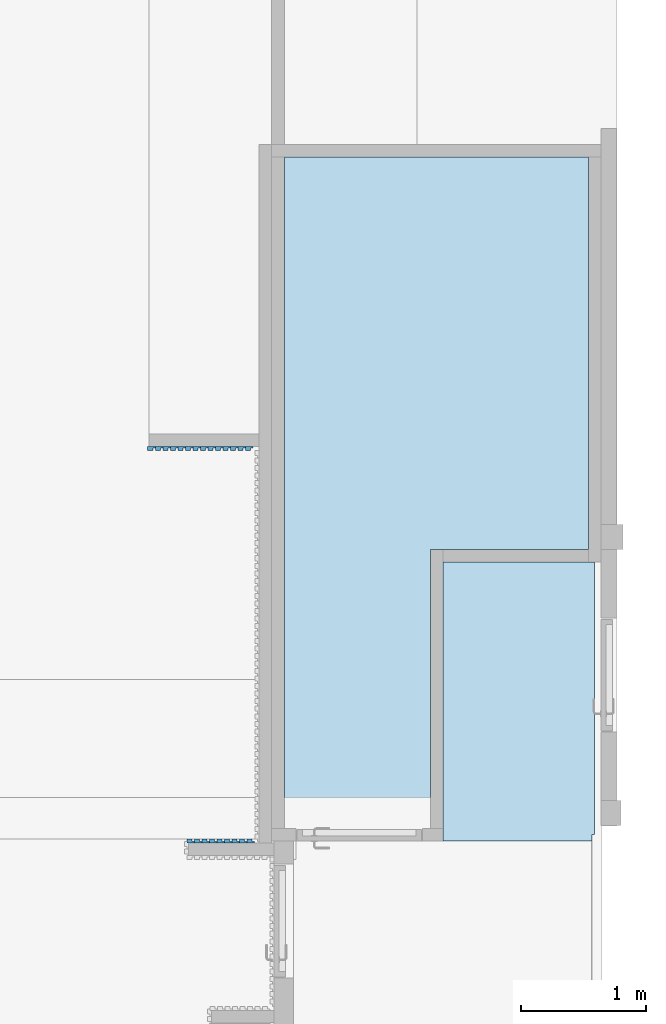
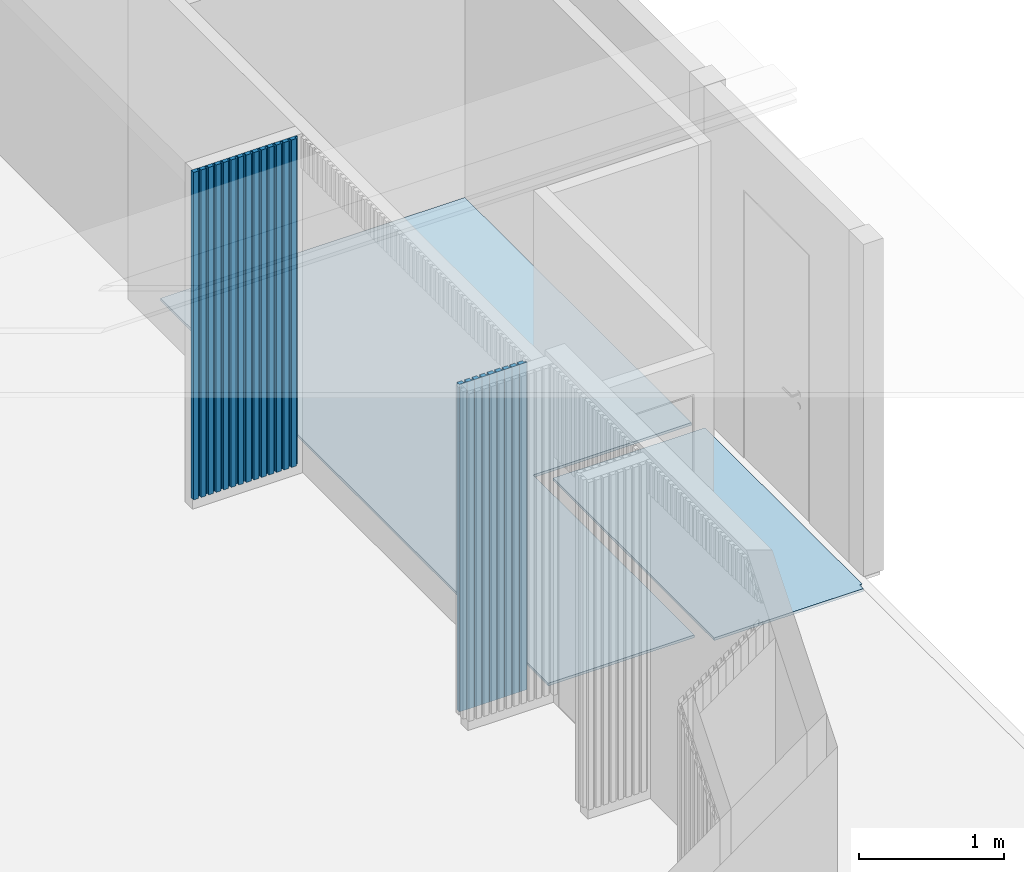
# One storey, part 14 of 37: 23 plates, 2 slabs, 2 elements without a shape of their own.
"""IFC2X3 building model written with IfcOpenShell, lengths in millimetres."""

from ifc_helpers import new_model, entity, si_unit, converted_unit, derived_unit, direction, frame, frame_2d, origin, origin_with_axes, place, context, subcontext, project, spatial, polyline, rectangle, outline, extrude, source, transform, mapped, material, material_list, layer, layer_set, layer_usage, type_object, element, aggregate, save


model = new_model("IFC2X3")

# Units and contexts
model_context = context("Model", 3, precision=0.01, world=frame((0.0, 4.29681676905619e-09, 0.0)), true_north=direction((4.01073788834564e-13, 1.0)))
plan_context = context("Plan", 3, precision=0.01, world=frame((0.0, 4.29681676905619e-09, 0.0)), true_north=direction((4.01073788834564e-13, 1.0)))
body_context = subcontext(model_context, "Body", "Model", "MODEL_VIEW")
ifc_project = project(units=[converted_unit("PLANEANGLEUNIT", "DEGREE", entity("IfcPositiveLengthMeasure", 0.0174532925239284), si_unit("PLANEANGLEUNIT", "RADIAN"), dimensions=[0, 0, 0, 0, 0, 0, 0]), si_unit("AREAUNIT", "SQUARE_METRE"), si_unit("LENGTHUNIT", "METRE", prefix="MILLI"), si_unit("MASSUNIT", "GRAM", prefix="KILO"), si_unit("POWERUNIT", "WATT"), si_unit("PRESSUREUNIT", "PASCAL"), si_unit("FORCEUNIT", "NEWTON", prefix="KILO"), si_unit("ELECTRICVOLTAGEUNIT", "VOLT"), si_unit("ELECTRICCURRENTUNIT", "AMPERE"), si_unit("THERMODYNAMICTEMPERATUREUNIT", "DEGREE_CELSIUS"), si_unit("TIMEUNIT", "SECOND"), si_unit("VOLUMEUNIT", "CUBIC_METRE"), derived_unit("LINEARVELOCITYUNIT", [(si_unit("LENGTHUNIT", "METRE"), 1), (si_unit("TIMEUNIT", "SECOND"), -1)]), derived_unit("VOLUMETRICFLOWRATEUNIT", [(si_unit("VOLUMEUNIT", "CUBIC_METRE"), 1), (si_unit("TIMEUNIT", "SECOND"), -1)]), derived_unit("THERMALTRANSMITTANCEUNIT", [(si_unit("POWERUNIT", "WATT"), 1), (si_unit("THERMODYNAMICTEMPERATUREUNIT", "KELVIN"), -1), (si_unit("AREAUNIT", "SQUARE_METRE"), -1)]), derived_unit("SOUNDPRESSUREUNIT", [(si_unit("PRESSUREUNIT", "PASCAL"), 1)])], contexts=[model_context, plan_context])

# Site, building, storey
site_placement = place(None, origin_with_axes())
site = spatial("IfcSite", under=ifc_project, at=site_placement, Name="ENGM", CompositionType="ELEMENT")
building_placement = place(site_placement, origin_with_axes())
building = spatial("IfcBuilding", under=site, at=building_placement, Name="TS", CompositionType="ELEMENT")
storey_placement = place(building_placement, frame((0.0, 0.0, 210900.0), z_axis=(0.0, 0.0, 1.0), x_axis=(1.0, 0.0, 0.0)))
storey = spatial("IfcBuildingStorey", under=building, at=storey_placement, Name="Nivå F", CompositionType="ELEMENT", Elevation=210900.0)

# Curtain wall, plates
curtain_wall_type = type_object("IfcCurtainWallType", PredefinedType="NOTDEFINED")
curtain_wall_1_placement = place(storey_placement, frame((0.0, 0.0, -210900.0), z_axis=(0.0, 0.0, 1.0), x_axis=(1.0, 0.0, 0.0)))
curtain_wall_1 = element("IfcCurtainWall", 1, at=curtain_wall_1_placement, inside=storey, type_object=curtain_wall_type)
ifc_material_1 = material(Name="MDF plate svart")
ifc_material_2 = material(Name="Wood")
ifc_material_list = material_list([ifc_material_1, ifc_material_2])
plate_type_1 = type_object("IfcPlateType", Name="Spiler_40 x 20:Spiler_40 x 20", PredefinedType="CURTAIN_PANEL", material=ifc_material_list)
shared_shape_1 = source(origin(), body_context, "Body", "SweptSolid", [
    extrude(rectangle(XDim=60.0, YDim=12.0, at=frame_2d((3.5527136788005e-15, 1.33226762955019e-15), x_axis=(1.0, 0.0))), frame((-10.0, 6.0, 0.0), z_axis=(0.0, 0.0, 1.0), x_axis=(-1.0, 0.0, 0.0)), (0.0, 0.0, 1.0), 2760.0),
    extrude(rectangle(XDim=20.0000000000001, YDim=39.9999999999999, at=frame_2d((0.0, 8.88178419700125e-15), x_axis=(1.0, 0.0))), frame((0.0, 22.0, 0.0), z_axis=(0.0, 0.0, 1.0), x_axis=(0.0, 1.0, 0.0)), (0.0, 0.0, 1.0), 2760.0),
])
plate_1_placement = place(curtain_wall_1_placement, frame((533376.873960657, 451220.346287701, 211000.0), z_axis=(0.0, 0.0, 1.0), x_axis=(-1.0, 0.0, 0.0)))
plate_1 = element("IfcPlate", 2, at=plate_1_placement, type_object=plate_type_1, material=ifc_material_list, Name="Spiler_40 x 20:Spiler_40 x 20", ObjectType="Spiler_40 x 20:Spiler_40 x 20", context=body_context, shape_type="MappedRepresentation", body=[
    mapped(shared_shape_1, transform((0.0, 0.0, 0.0), scale=1.0)),
])
plate_type_2 = type_object("IfcPlateType", Name="Spiler_40 x 20:Spiler_40 x 20", PredefinedType="CURTAIN_PANEL", material=ifc_material_list)
plate_2_placement = place(curtain_wall_1_placement, frame((533316.873960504, 451220.346287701, 211000.0), z_axis=(0.0, 0.0, 1.0), x_axis=(-1.0, 0.0, 0.0)))
plate_2 = element("IfcPlate", 3, at=plate_2_placement, type_object=plate_type_2, material=ifc_material_list, Name="Spiler_40 x 20:Spiler_40 x 20", ObjectType="Spiler_40 x 20:Spiler_40 x 20", context=body_context, shape_type="MappedRepresentation", body=[
    mapped(shared_shape_1, transform((0.0, 0.0, 0.0), scale=1.0)),
])
plate_3_placement = place(curtain_wall_1_placement, frame((533256.873960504, 451220.346287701, 211000.0), z_axis=(0.0, 0.0, 1.0), x_axis=(-1.0, 0.0, 0.0)))
plate_3 = element("IfcPlate", 4, at=plate_3_placement, type_object=plate_type_2, material=ifc_material_list, Name="Spiler_40 x 20:Spiler_40 x 20", ObjectType="Spiler_40 x 20:Spiler_40 x 20", context=body_context, shape_type="MappedRepresentation", body=[
    mapped(shared_shape_1, transform((0.0, 0.0, 0.0), scale=1.0)),
])
plate_4_placement = place(curtain_wall_1_placement, frame((533196.873960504, 451220.346287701, 211000.0), z_axis=(0.0, 0.0, 1.0), x_axis=(-1.0, 0.0, 0.0)))
plate_4 = element("IfcPlate", 5, at=plate_4_placement, type_object=plate_type_2, material=ifc_material_list, Name="Spiler_40 x 20:Spiler_40 x 20", ObjectType="Spiler_40 x 20:Spiler_40 x 20", context=body_context, shape_type="MappedRepresentation", body=[
    mapped(shared_shape_1, transform((0.0, 0.0, 0.0), scale=1.0)),
])
plate_5_placement = place(curtain_wall_1_placement, frame((533136.873960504, 451220.346287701, 211000.0), z_axis=(0.0, 0.0, 1.0), x_axis=(-1.0, 0.0, 0.0)))
plate_5 = element("IfcPlate", 6, at=plate_5_placement, type_object=plate_type_2, material=ifc_material_list, Name="Spiler_40 x 20:Spiler_40 x 20", ObjectType="Spiler_40 x 20:Spiler_40 x 20", context=body_context, shape_type="MappedRepresentation", body=[
    mapped(shared_shape_1, transform((0.0, 0.0, 0.0), scale=1.0)),
])
plate_6_placement = place(curtain_wall_1_placement, frame((533076.873960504, 451220.346287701, 211000.0), z_axis=(0.0, 0.0, 1.0), x_axis=(-1.0, 0.0, 0.0)))
plate_6 = element("IfcPlate", 7, at=plate_6_placement, type_object=plate_type_2, material=ifc_material_list, Name="Spiler_40 x 20:Spiler_40 x 20", ObjectType="Spiler_40 x 20:Spiler_40 x 20", context=body_context, shape_type="MappedRepresentation", body=[
    mapped(shared_shape_1, transform((0.0, 0.0, 0.0), scale=1.0)),
])
plate_7_placement = place(curtain_wall_1_placement, frame((533016.873960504, 451220.346287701, 211000.0), z_axis=(0.0, 0.0, 1.0), x_axis=(-1.0, 0.0, 0.0)))
plate_7 = element("IfcPlate", 8, at=plate_7_placement, type_object=plate_type_2, material=ifc_material_list, Name="Spiler_40 x 20:Spiler_40 x 20", ObjectType="Spiler_40 x 20:Spiler_40 x 20", context=body_context, shape_type="MappedRepresentation", body=[
    mapped(shared_shape_1, transform((0.0, 0.0, 0.0), scale=1.0)),
])
plate_8_placement = place(curtain_wall_1_placement, frame((532956.873960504, 451220.346287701, 211000.0), z_axis=(0.0, 0.0, 1.0), x_axis=(-1.0, 0.0, 0.0)))
plate_8 = element("IfcPlate", 9, at=plate_8_placement, type_object=plate_type_2, material=ifc_material_list, Name="Spiler_40 x 20:Spiler_40 x 20", ObjectType="Spiler_40 x 20:Spiler_40 x 20", context=body_context, shape_type="MappedRepresentation", body=[
    mapped(shared_shape_1, transform((0.0, 0.0, 0.0), scale=1.0)),
])
plate_9_placement = place(curtain_wall_1_placement, frame((532896.873960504, 451220.346287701, 211000.0), z_axis=(0.0, 0.0, 1.0), x_axis=(-1.0, 0.0, 0.0)))
plate_9 = element("IfcPlate", 10, at=plate_9_placement, type_object=plate_type_2, material=ifc_material_list, Name="Spiler_40 x 20:Spiler_40 x 20", ObjectType="Spiler_40 x 20:Spiler_40 x 20", context=body_context, shape_type="MappedRepresentation", body=[
    mapped(shared_shape_1, transform((0.0, 0.0, 0.0), scale=1.0)),
])
plate_10_placement = place(curtain_wall_1_placement, frame((532836.873960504, 451220.346287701, 211000.0), z_axis=(0.0, 0.0, 1.0), x_axis=(-1.0, 0.0, 0.0)))
plate_10 = element("IfcPlate", 11, at=plate_10_placement, type_object=plate_type_2, material=ifc_material_list, Name="Spiler_40 x 20:Spiler_40 x 20", ObjectType="Spiler_40 x 20:Spiler_40 x 20", context=body_context, shape_type="MappedRepresentation", body=[
    mapped(shared_shape_1, transform((0.0, 0.0, 0.0), scale=1.0)),
])
plate_11_placement = place(curtain_wall_1_placement, frame((532776.873960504, 451220.346287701, 211000.0), z_axis=(0.0, 0.0, 1.0), x_axis=(-1.0, 0.0, 0.0)))
plate_11 = element("IfcPlate", 12, at=plate_11_placement, type_object=plate_type_2, material=ifc_material_list, Name="Spiler_40 x 20:Spiler_40 x 20", ObjectType="Spiler_40 x 20:Spiler_40 x 20", context=body_context, shape_type="MappedRepresentation", body=[
    mapped(shared_shape_1, transform((0.0, 0.0, 0.0), scale=1.0)),
])
plate_12_placement = place(curtain_wall_1_placement, frame((532716.873960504, 451220.346287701, 211000.0), z_axis=(0.0, 0.0, 1.0), x_axis=(-1.0, 0.0, 0.0)))
plate_12 = element("IfcPlate", 13, at=plate_12_placement, type_object=plate_type_2, material=ifc_material_list, Name="Spiler_40 x 20:Spiler_40 x 20", ObjectType="Spiler_40 x 20:Spiler_40 x 20", context=body_context, shape_type="MappedRepresentation", body=[
    mapped(shared_shape_1, transform((0.0, 0.0, 0.0), scale=1.0)),
])
plate_13_placement = place(curtain_wall_1_placement, frame((532656.873960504, 451220.346287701, 211000.0), z_axis=(0.0, 0.0, 1.0), x_axis=(-1.0, 0.0, 0.0)))
plate_13 = element("IfcPlate", 14, at=plate_13_placement, type_object=plate_type_2, material=ifc_material_list, Name="Spiler_40 x 20:Spiler_40 x 20", ObjectType="Spiler_40 x 20:Spiler_40 x 20", context=body_context, shape_type="MappedRepresentation", body=[
    mapped(shared_shape_1, transform((0.0, 0.0, 0.0), scale=1.0)),
])
plate_14_placement = place(curtain_wall_1_placement, frame((532596.873960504, 451220.346287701, 211000.0), z_axis=(0.0, 0.0, 1.0), x_axis=(-1.0, 0.0, 0.0)))
plate_14 = element("IfcPlate", 15, at=plate_14_placement, type_object=plate_type_2, material=ifc_material_list, Name="Spiler_40 x 20:Spiler_40 x 20", ObjectType="Spiler_40 x 20:Spiler_40 x 20", context=body_context, shape_type="MappedRepresentation", body=[
    mapped(shared_shape_1, transform((0.0, 0.0, 0.0), scale=1.0)),
])
aggregate(curtain_wall_1, [plate_1, plate_2, plate_3, plate_4, plate_5, plate_6, plate_7, plate_8, plate_9, plate_10, plate_11, plate_12, plate_13, plate_14])

curtain_wall_2_placement = place(storey_placement, frame((0.0, 0.0, -210900.0), z_axis=(0.0, 0.0, 1.0), x_axis=(1.0, 0.0, 0.0)))
curtain_wall_2 = element("IfcCurtainWall", 16, at=curtain_wall_2_placement, inside=storey, type_object=curtain_wall_type)
plate_type_3 = type_object("IfcPlateType", Name="Spiler_40 x 20:Spiler_40 x 20", PredefinedType="CURTAIN_PANEL", material=ifc_material_list)
shared_shape_2 = source(origin(), body_context, "Body", "SweptSolid", [
    extrude(rectangle(XDim=12.0, YDim=60.0, at=frame_2d((-2.22044604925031e-15, 3.5527136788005e-15), x_axis=(1.0, 0.0))), frame((-10.0, -6.0, 0.0), z_axis=(0.0, 0.0, 1.0), x_axis=(0.0, 1.0, 0.0)), (0.0, 0.0, 1.0), 2760.0),
    extrude(rectangle(XDim=39.9999999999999, YDim=20.0000000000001, at=frame_2d((8.88178419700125e-15, 0.0), x_axis=(1.0, 0.0))), frame((0.0, -22.0, 0.0), z_axis=(0.0, 0.0, 1.0), x_axis=(-1.0, 0.0, 0.0)), (0.0, 0.0, 1.0), 2760.0),
])
plate_15_placement = place(curtain_wall_2_placement, frame((533389.873960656, 448061.346287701, 211000.0), z_axis=(0.0, 0.0, 1.0), x_axis=(-1.0, 0.0, 0.0)))
plate_15 = element("IfcPlate", 17, at=plate_15_placement, type_object=plate_type_3, material=ifc_material_list, Name="Spiler_40 x 20:Spiler_40 x 20", ObjectType="Spiler_40 x 20:Spiler_40 x 20", context=body_context, shape_type="MappedRepresentation", body=[
    mapped(shared_shape_2, transform((0.0, 0.0, 0.0), scale=1.0)),
])
plate_type_4 = type_object("IfcPlateType", Name="Spiler_40 x 20:Spiler_40 x 20", PredefinedType="CURTAIN_PANEL", material=ifc_material_list)
plate_16_placement = place(curtain_wall_2_placement, frame((533329.873960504, 448061.346287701, 211000.0), z_axis=(0.0, 0.0, 1.0), x_axis=(-1.0, 0.0, 0.0)))
plate_16 = element("IfcPlate", 18, at=plate_16_placement, type_object=plate_type_4, material=ifc_material_list, Name="Spiler_40 x 20:Spiler_40 x 20", ObjectType="Spiler_40 x 20:Spiler_40 x 20", context=body_context, shape_type="MappedRepresentation", body=[
    mapped(shared_shape_2, transform((0.0, 0.0, 0.0), scale=1.0)),
])
plate_17_placement = place(curtain_wall_2_placement, frame((533269.873960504, 448061.346287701, 211000.0), z_axis=(0.0, 0.0, 1.0), x_axis=(-1.0, 0.0, 0.0)))
plate_17 = element("IfcPlate", 19, at=plate_17_placement, type_object=plate_type_4, material=ifc_material_list, Name="Spiler_40 x 20:Spiler_40 x 20", ObjectType="Spiler_40 x 20:Spiler_40 x 20", context=body_context, shape_type="MappedRepresentation", body=[
    mapped(shared_shape_2, transform((0.0, 0.0, 0.0), scale=1.0)),
])
plate_18_placement = place(curtain_wall_2_placement, frame((533209.873960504, 448061.346287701, 211000.0), z_axis=(0.0, 0.0, 1.0), x_axis=(-1.0, 0.0, 0.0)))
plate_18 = element("IfcPlate", 20, at=plate_18_placement, type_object=plate_type_4, material=ifc_material_list, Name="Spiler_40 x 20:Spiler_40 x 20", ObjectType="Spiler_40 x 20:Spiler_40 x 20", context=body_context, shape_type="MappedRepresentation", body=[
    mapped(shared_shape_2, transform((0.0, 0.0, 0.0), scale=1.0)),
])
plate_19_placement = place(curtain_wall_2_placement, frame((533149.873960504, 448061.346287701, 211000.0), z_axis=(0.0, 0.0, 1.0), x_axis=(-1.0, 0.0, 0.0)))
plate_19 = element("IfcPlate", 21, at=plate_19_placement, type_object=plate_type_4, material=ifc_material_list, Name="Spiler_40 x 20:Spiler_40 x 20", ObjectType="Spiler_40 x 20:Spiler_40 x 20", context=body_context, shape_type="MappedRepresentation", body=[
    mapped(shared_shape_2, transform((0.0, 0.0, 0.0), scale=1.0)),
])
plate_20_placement = place(curtain_wall_2_placement, frame((533089.873960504, 448061.346287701, 211000.0), z_axis=(0.0, 0.0, 1.0), x_axis=(-1.0, 0.0, 0.0)))
plate_20 = element("IfcPlate", 22, at=plate_20_placement, type_object=plate_type_4, material=ifc_material_list, Name="Spiler_40 x 20:Spiler_40 x 20", ObjectType="Spiler_40 x 20:Spiler_40 x 20", context=body_context, shape_type="MappedRepresentation", body=[
    mapped(shared_shape_2, transform((0.0, 0.0, 0.0), scale=1.0)),
])
plate_21_placement = place(curtain_wall_2_placement, frame((533029.873960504, 448061.346287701, 211000.0), z_axis=(0.0, 0.0, 1.0), x_axis=(-1.0, 0.0, 0.0)))
plate_21 = element("IfcPlate", 23, at=plate_21_placement, type_object=plate_type_4, material=ifc_material_list, Name="Spiler_40 x 20:Spiler_40 x 20", ObjectType="Spiler_40 x 20:Spiler_40 x 20", context=body_context, shape_type="MappedRepresentation", body=[
    mapped(shared_shape_2, transform((0.0, 0.0, 0.0), scale=1.0)),
])
plate_22_placement = place(curtain_wall_2_placement, frame((532969.873960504, 448061.346287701, 211000.0), z_axis=(0.0, 0.0, 1.0), x_axis=(-1.0, 0.0, 0.0)))
plate_22 = element("IfcPlate", 24, at=plate_22_placement, type_object=plate_type_4, material=ifc_material_list, Name="Spiler_40 x 20:Spiler_40 x 20", ObjectType="Spiler_40 x 20:Spiler_40 x 20", context=body_context, shape_type="MappedRepresentation", body=[
    mapped(shared_shape_2, transform((0.0, 0.0, 0.0), scale=1.0)),
])
plate_23_placement = place(curtain_wall_2_placement, frame((532909.873960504, 448061.346287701, 211000.0), z_axis=(0.0, 0.0, 1.0), x_axis=(-1.0, 0.0, 0.0)))
plate_23 = element("IfcPlate", 25, at=plate_23_placement, type_object=plate_type_4, material=ifc_material_list, Name="Spiler_40 x 20:Spiler_40 x 20", ObjectType="Spiler_40 x 20:Spiler_40 x 20", context=body_context, shape_type="MappedRepresentation", body=[
    mapped(shared_shape_2, transform((0.0, 0.0, 0.0), scale=1.0)),
])
aggregate(curtain_wall_2, [plate_15, plate_16, plate_17, plate_18, plate_19, plate_20, plate_21, plate_22, plate_23])

# Slabs
ifc_material_3 = material(Name="_NSW Gulv (Generell)")
ifc_layer_1 = layer(ifc_material_3, 4.0)
ifc_material_4 = material(Name="T2_Mørtel")
ifc_layer_2 = layer(ifc_material_4, 18.0)
ifc_layer_set = layer_set([ifc_layer_1, ifc_layer_2], Name="Floor:A254 - GU-B01 - Banebelegg 22")
ifc_layer_usage_1 = layer_usage(ifc_layer_set, "AXIS3", "POSITIVE", 0.0)
slab_type = type_object("IfcSlabType", Name="Floor:A254 - GU-B01 - Banebelegg 22", PredefinedType="FLOOR", material=ifc_layer_set)
slab_1_placement = place(storey_placement, origin_with_axes())
element("IfcSlab", 26, at=slab_1_placement, inside=storey, type_object=slab_type, material=ifc_layer_usage_1, Name="Floor:A254 - GU-B01 - Banebelegg 22", ObjectType="Floor:A254 - GU-B01 - Banebelegg 22", PredefinedType="FLOOR", context=body_context, shape_type="SweptSolid", body=[
    extrude(outline(polyline([(-2525.09583333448, -1196.83333334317), (2827.19166666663, -1196.83333334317), (2827.19166666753, 1228.66666666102), (-302.095833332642, 1228.66666666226), (-302.095833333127, -31.8333333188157), (-2525.09583333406, -31.8333333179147), (-2525.09583333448, -1196.83333334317)])), frame((534862.333333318, 450702.095833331, 0.0), z_axis=(0.0, 0.0, -1.0), x_axis=(0.0, 1.0, 0.0)), (0.0, 0.0, 1.0), 21.999999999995),
])
ifc_layer_usage_2 = layer_usage(ifc_layer_set, "AXIS3", "POSITIVE", 0.0)
slab_2_placement = place(storey_placement, origin_with_axes())
element("IfcSlab", 27, at=slab_2_placement, inside=storey, type_object=slab_type, material=ifc_layer_usage_2, Name="Floor:A254 - GU-B01 - Banebelegg 22", ObjectType="Floor:A254 - GU-B01 - Banebelegg 22", PredefinedType="FLOOR", context=body_context, shape_type="SweptSolid", body=[
    extrude(outline(polyline([(-758.42598141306, -799.824999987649), (1464.57401858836, -799.824999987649), (1464.57401858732, 409.912499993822), (-706.148037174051, 409.912499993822), (-706.148037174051, 389.912499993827), (-758.42598141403, 389.912499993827), (-758.42598141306, -799.824999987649)])), frame((535730.324999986, 448835.425981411, 0.0), z_axis=(0.0, 0.0, -1.0), x_axis=(0.0, 1.0, 0.0)), (0.0, 0.0, 1.0), 21.999999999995),
])

save(model, "model.ifc")
